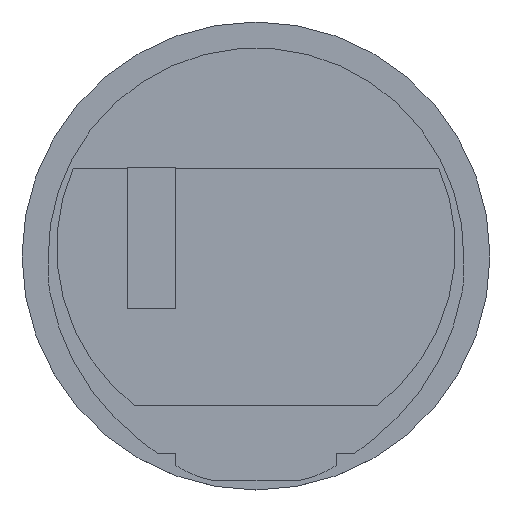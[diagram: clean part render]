
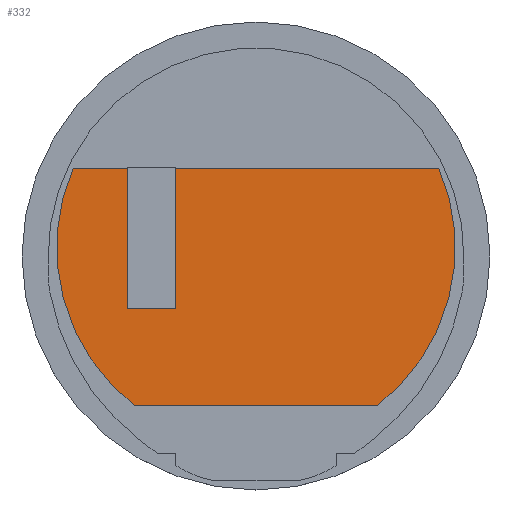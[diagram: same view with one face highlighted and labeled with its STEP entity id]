
A CAD part, top view. The second image highlights one B-rep face of the part: STEP entity #332.
In plain terms, the highlighted planar face has unit normal (0, 0, 1).
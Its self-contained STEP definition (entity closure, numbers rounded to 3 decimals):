
#294=PLANE('',#942);
#332=ADVANCED_FACE('',(#391),#294,.F.);
#391=FACE_OUTER_BOUND('',#427,.T.);
#427=EDGE_LOOP('',(#663,#664,#665,#666));
#485=LINE('',#1282,#529);
#489=LINE('',#1294,#533);
#529=VECTOR('',#1088,1.);
#533=VECTOR('',#1100,1.);
#663=ORIENTED_EDGE('',*,*,#827,.F.);
#664=ORIENTED_EDGE('',*,*,#836,.F.);
#665=ORIENTED_EDGE('',*,*,#833,.F.);
#666=ORIENTED_EDGE('',*,*,#830,.F.);
#749=VERTEX_POINT('',#1281);
#750=VERTEX_POINT('',#1283);
#752=VERTEX_POINT('',#1289);
#754=VERTEX_POINT('',#1295);
#827=EDGE_CURVE('',#749,#750,#485,.T.);
#830=EDGE_CURVE('',#750,#752,#880,.T.);
#833=EDGE_CURVE('',#752,#754,#489,.T.);
#836=EDGE_CURVE('',#754,#749,#882,.T.);
#880=CIRCLE('',#936,23.);
#882=CIRCLE('',#940,23.);
#936=AXIS2_PLACEMENT_3D('',#1288,#1094,#1095);
#940=AXIS2_PLACEMENT_3D('',#1299,#1106,#1107);
#942=AXIS2_PLACEMENT_3D('',#1301,#1110,#1111);
#1088=DIRECTION('',(-1.,0.,0.));
#1094=DIRECTION('',(0.,0.,-1.));
#1095=DIRECTION('',(1.,0.,0.));
#1100=DIRECTION('',(1.,0.,0.));
#1106=DIRECTION('',(0.,0.,-1.));
#1107=DIRECTION('',(1.,0.,0.));
#1110=DIRECTION('',(0.,0.,-1.));
#1111=DIRECTION('',(-1.,0.,0.));
#1281=CARTESIAN_POINT('',(750.573,-0.223,1.1));
#1282=CARTESIAN_POINT('',(750.573,-0.223,1.1));
#1283=CARTESIAN_POINT('',(722.697,-0.223,1.1));
#1288=CARTESIAN_POINT('',(736.635,18.073,1.1));
#1289=CARTESIAN_POINT('',(715.533,27.222,1.1));
#1294=CARTESIAN_POINT('',(715.533,27.222,1.1));
#1295=CARTESIAN_POINT('',(757.737,27.222,1.1));
#1299=CARTESIAN_POINT('',(736.635,18.073,1.1));
#1301=CARTESIAN_POINT('',(736.635,18.073,1.1));
